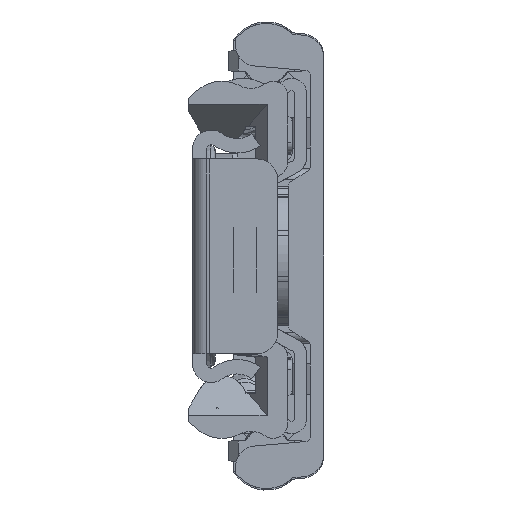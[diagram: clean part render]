
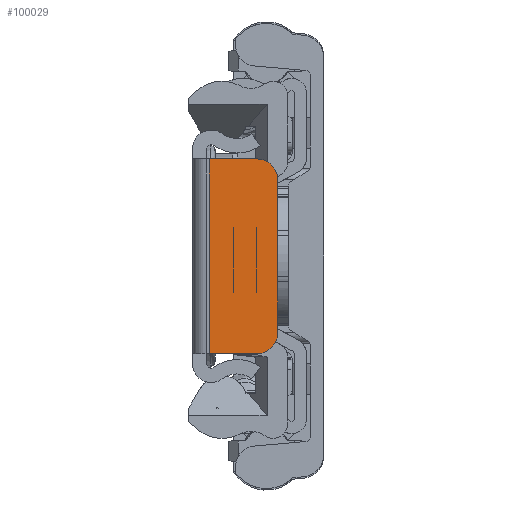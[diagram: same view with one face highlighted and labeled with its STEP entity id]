
A CAD part, left-side view. The second image highlights one B-rep face of the part: STEP entity #100029.
In plain terms, the highlighted planar face has unit normal (-1, 0, 0).
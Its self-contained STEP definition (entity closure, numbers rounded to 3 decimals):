
#3545 = LINE ( 'NONE', #41848, #68944 ) ;
#4779 = EDGE_CURVE ( 'NONE', #41885, #115935, #93990, .T. ) ;
#5950 = EDGE_CURVE ( 'NONE', #107546, #44701, #3545, .T. ) ;
#8006 = CARTESIAN_POINT ( 'NONE',  ( -3., 1.6, 9.5 ) ) ;
#12117 = DIRECTION ( 'NONE',  ( 0., 0., -1. ) ) ;
#12215 = DIRECTION ( 'NONE',  ( 0., -1., 0. ) ) ;
#15497 = CARTESIAN_POINT ( 'NONE',  ( -3., 6.3, 9.5 ) ) ;
#16168 = VERTEX_POINT ( 'NONE', #117056 ) ;
#18003 = ORIENTED_EDGE ( 'NONE', *, *, #5950, .F. ) ;
#25250 = AXIS2_PLACEMENT_3D ( 'NONE', #65263, #28148, #102488 ) ;
#28148 = DIRECTION ( 'NONE',  ( -1., 0., 0. ) ) ;
#31341 = EDGE_CURVE ( 'NONE', #16168, #44701, #77884, .T. ) ;
#39167 = DIRECTION ( 'NONE',  ( -1., 0., 0. ) ) ;
#39787 = PLANE ( 'NONE',  #84652 ) ;
#40637 = CARTESIAN_POINT ( 'NONE',  ( -3., 8.3, -9.5 ) ) ;
#40731 = CARTESIAN_POINT ( 'NONE',  ( -3., 8.3, 7.5 ) ) ;
#41848 = CARTESIAN_POINT ( 'NONE',  ( -3., 1.6, -12.325 ) ) ;
#41885 = VERTEX_POINT ( 'NONE', #15497 ) ;
#42810 = CIRCLE ( 'NONE', #25250, 2. ) ;
#44701 = VERTEX_POINT ( 'NONE', #52351 ) ;
#46543 = VECTOR ( 'NONE', #57503, 1000. ) ;
#47703 = CARTESIAN_POINT ( 'NONE',  ( -3., 0., -9.5 ) ) ;
#49984 = DIRECTION ( 'NONE',  ( 0., 0., -1. ) ) ;
#52351 = CARTESIAN_POINT ( 'NONE',  ( -3., 1.6, -9.5 ) ) ;
#53908 = ORIENTED_EDGE ( 'NONE', *, *, #86655, .T. ) ;
#57503 = DIRECTION ( 'NONE',  ( 0., 1., 0. ) ) ;
#57643 = VECTOR ( 'NONE', #78972, 1000. ) ;
#59490 = EDGE_CURVE ( 'NONE', #115935, #112465, #88087, .T. ) ;
#64753 = ORIENTED_EDGE ( 'NONE', *, *, #59490, .T. ) ;
#65263 = CARTESIAN_POINT ( 'NONE',  ( -3., 6.3, -7.5 ) ) ;
#68944 = VECTOR ( 'NONE', #12117, 1000. ) ;
#75113 = FACE_OUTER_BOUND ( 'NONE', #118231, .T. ) ;
#76902 = DIRECTION ( 'NONE',  ( 0., 0., 1. ) ) ;
#77884 = LINE ( 'NONE', #94947, #108528 ) ;
#78972 = DIRECTION ( 'NONE',  ( 0., 0., -1. ) ) ;
#84652 = AXIS2_PLACEMENT_3D ( 'NONE', #47703, #39167, #76902 ) ;
#86655 = EDGE_CURVE ( 'NONE', #107546, #41885, #103252, .T. ) ;
#87111 = EDGE_CURVE ( 'NONE', #112465, #16168, #42810, .T. ) ;
#88087 = LINE ( 'NONE', #40637, #57643 ) ;
#88315 = DIRECTION ( 'NONE',  ( -1., 0., 0. ) ) ;
#88849 = ORIENTED_EDGE ( 'NONE', *, *, #31341, .T. ) ;
#88938 = CARTESIAN_POINT ( 'NONE',  ( -3., 6.3, 7.5 ) ) ;
#93990 = CIRCLE ( 'NONE', #105708, 2. ) ;
#94747 = ORIENTED_EDGE ( 'NONE', *, *, #87111, .T. ) ;
#94947 = CARTESIAN_POINT ( 'NONE',  ( -3., 8.3, -9.5 ) ) ;
#95235 = CARTESIAN_POINT ( 'NONE',  ( -3., 0., 9.5 ) ) ;
#99790 = CARTESIAN_POINT ( 'NONE',  ( -3., 8.3, -7.5 ) ) ;
#100029 = ADVANCED_FACE ( 'NONE', ( #75113 ), #39787, .T. ) ;
#102488 = DIRECTION ( 'NONE',  ( 0., 0., -1. ) ) ;
#103252 = LINE ( 'NONE', #95235, #46543 ) ;
#105708 = AXIS2_PLACEMENT_3D ( 'NONE', #88938, #88315, #49984 ) ;
#107546 = VERTEX_POINT ( 'NONE', #8006 ) ;
#108528 = VECTOR ( 'NONE', #12215, 1000. ) ;
#111926 = ORIENTED_EDGE ( 'NONE', *, *, #4779, .T. ) ;
#112465 = VERTEX_POINT ( 'NONE', #99790 ) ;
#115935 = VERTEX_POINT ( 'NONE', #40731 ) ;
#117056 = CARTESIAN_POINT ( 'NONE',  ( -3., 6.3, -9.5 ) ) ;
#118231 = EDGE_LOOP ( 'NONE', ( #53908, #111926, #64753, #94747, #88849, #18003 ) ) ;
